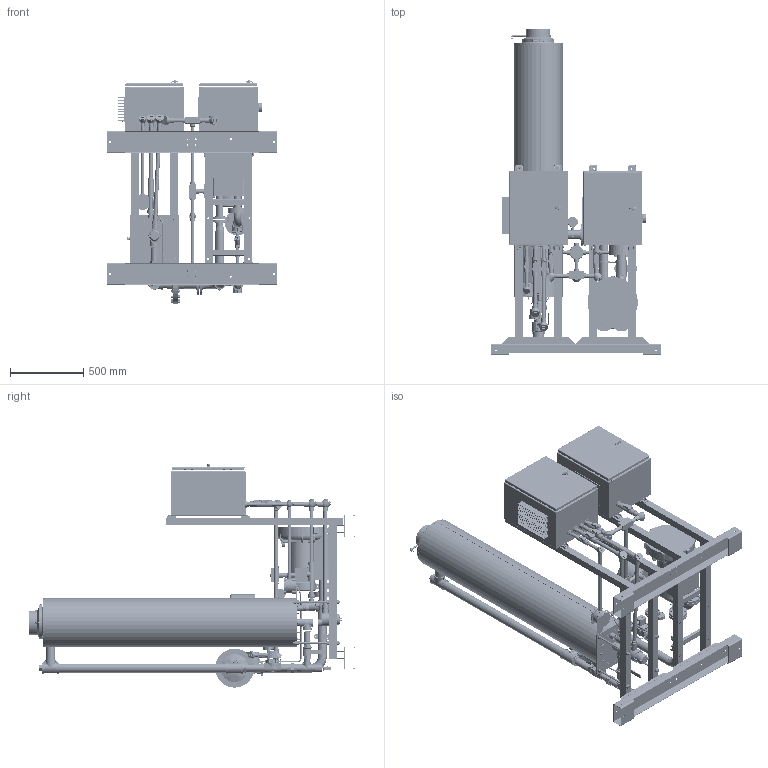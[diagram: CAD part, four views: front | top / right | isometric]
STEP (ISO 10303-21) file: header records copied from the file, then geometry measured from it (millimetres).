
FILE_DESCRIPTION (( 'STEP AP203' ), '1' );
FILE_NAME ('F100 VFD assyc.STEP', '2020-05-20T19:38:23', ( '' ), ( '' ), 'SwSTEP 2.0', 'SolidWorks 2019', '' );
FILE_SCHEMA (( 'CONFIG_CONTROL_DESIGN' ));
Products named in the file (1): F100 VFD assyc
Bounding box: 1168.4 x 2234.65 x 1527.44 mm (x, y, z)
Surface area: 16045100.4 mm2 (no closed solid volume)
Topology: 0 solids, 571 shells, 3109 faces, 11234 edges, 8335 vertices
Faces by surface type: plane 1680, cylinder 972, torus 152, bspline 150, cone 136, sphere 19
Full cylindrical faces by diameter (mm): 2.25 x1, 4.75 x1, 6.35 x55, 6.604 x2, 7.572 x1, 7.937 x1, 8.255 x1, 9 x1, 9.525 x7, 9.779 x1, 9.888 x1, 10.033 x1, 10.414 x20, 11.125 x4, 11.43 x1, 12.7 x6, 13.487 x6, 13.716 x3, 14.224 x4, 14.287 x1, 14.288 x1, 14.3 x18, 14.427 x1, 14.494 x1, 14.85 x1, 15.113 x3, 15.24 x8, 15.286 x1, 15.875 x21, 17.018 x2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
Entity records: 192766 total; most frequent: CARTESIAN_POINT 106291, DIRECTION 17235, ORIENTED_EDGE 14574, EDGE_CURVE 10302, VERTEX_POINT 8022, AXIS2_PLACEMENT_3D 6049, VECTOR 5137, LINE 5137
